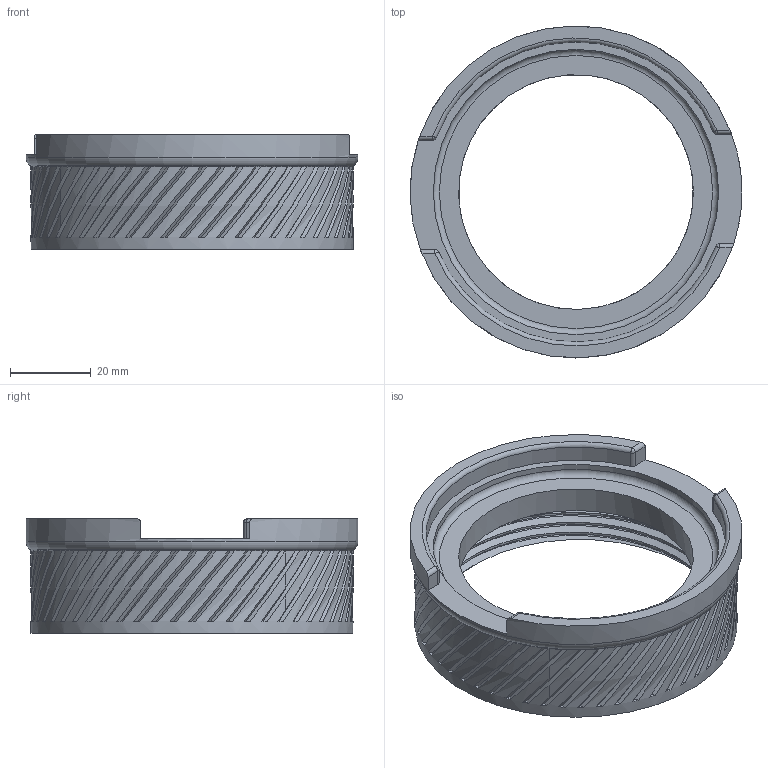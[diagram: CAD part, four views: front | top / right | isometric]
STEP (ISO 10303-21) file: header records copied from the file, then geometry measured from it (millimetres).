
FILE_DESCRIPTION(/* description */ ('STEP AP242','CAx-IF Rec.Pracs.---Representation and Presentation of Product Manufacturing Information (PMI)---4.0---2014-10-13','CAx-IF Rec.Pracs.---3D Tessellated Geometry---0.4---2014-09-14','2;1'),/* implementation_level */ '2;1');
FILE_NAME(/* name */ '646925b2cac4670533c20f84',/* time_stamp */ '2023-05-20T19:55:31Z',/* author */ (''),/* organization */ (''),/* preprocessor_version */ 'ST-DEVELOPER v19.4',/* originating_system */ ' ',/* authorisation */ ' ');
FILE_SCHEMA (('AP242_MANAGED_MODEL_BASED_3D_ENGINEERING_MIM_LF { 1 0 10303 442 1 1 4 }'));
Length unit declared in the file: metre
Products named in the file (1): Base 24mm NoMagnet Lug
Bounding box: 82 x 82 x 28.4 mm (x, y, z)
Volume: 37021.7 mm3; surface area: 19397.3 mm2
Topology: 1 solids, 1 shells, 302 faces, 772 edges, 472 vertices
Faces by surface type: plane 139, bspline 132, cylinder 18, cone 5, torus 4, sphere 4
Full cylindrical faces by diameter (mm): 58 x1, 70.5 x1, 79.6 x1, 82 x1
Entity records: 15459 total; most frequent: CARTESIAN_POINT 9803, ORIENTED_EDGE 1490, DIRECTION 802, EDGE_CURVE 745, VERTEX_POINT 460, AXIS2_PLACEMENT_3D 368, B_SPLINE_CURVE_WITH_KNOTS 317, EDGE_LOOP 313
